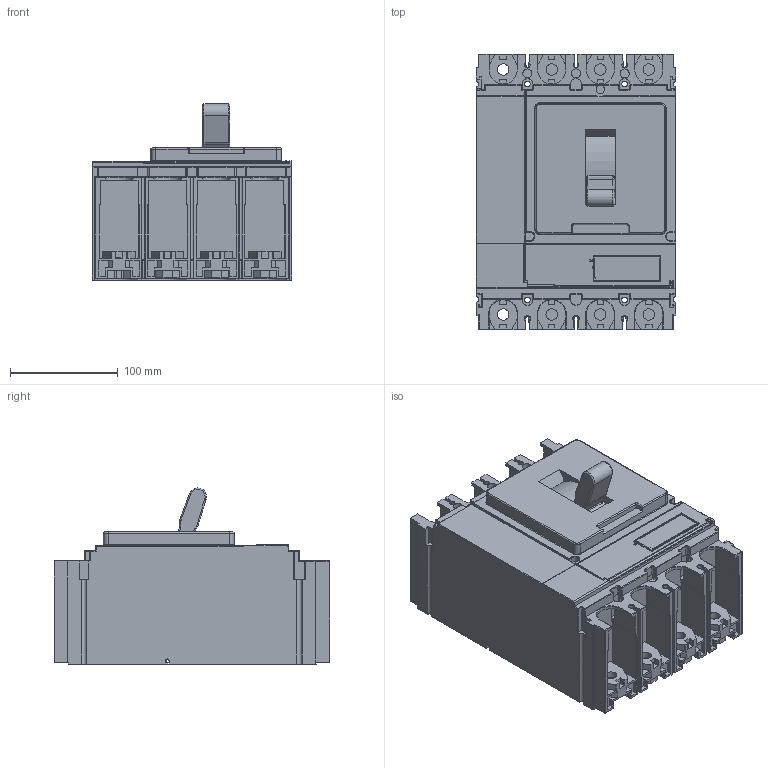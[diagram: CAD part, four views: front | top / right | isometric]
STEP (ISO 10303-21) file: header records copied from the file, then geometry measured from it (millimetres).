
FILE_DESCRIPTION((''),'2;1');
FILE_NAME('C63F47E570_ASM','2020-12-17T17:11:20',('User'),('Schneider-Electric'),'CREO PARAMETRIC BY PTC INC, 2018300','CREO PARAMETRIC BY PTC INC, 2018300','');
FILE_SCHEMA(('CONFIG_CONTROL_DESIGN'));
Length unit declared in the file: millimetre
Products named in the file (2): C63F47E570; C63F47E570_ASM
Assembly tree (1 placements, depth 2):
  C63F47E570_ASM
    C63F47E570
Bounding box: 184.72 x 255.02 x 163.07 mm (x, y, z)
Volume: 4430740.9 mm3; surface area: 294427 mm2
Topology: 1 solids, 3 shells, 1412 faces, 3874 edges, 2482 vertices
Faces by surface type: plane 895, cylinder 415, sphere 40, torus 38, bspline 20, extrusion 4
Entity records: 46068 total; most frequent: CARTESIAN_POINT 9804, ORIENTED_EDGE 7748, DIRECTION 7350, EDGE_CURVE 3874, VECTOR 2884, LINE 2880, VERTEX_POINT 2482, AXIS2_PLACEMENT_3D 2233
